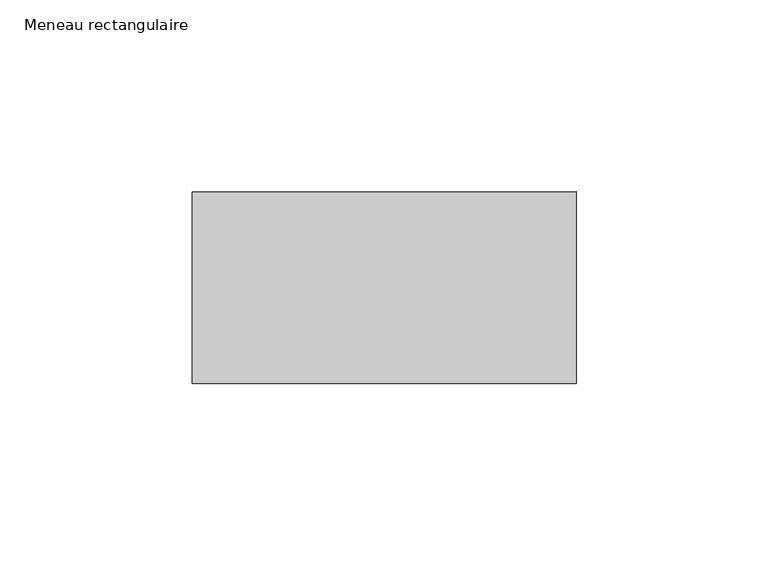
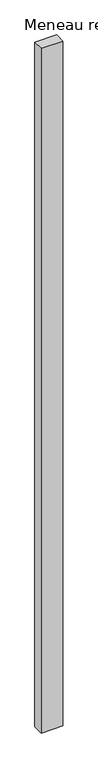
"""IFC4 building model written with IfcOpenShell, lengths in millimetres: member geometry, Meneau rectangulaire : 10x5cm aluminium laqué gris."""

from ifc_helpers import new_model, si_unit, frame, origin, place, context, project, spatial, polyline, outline, extrude, source, transform, mapped, element, save


def meneau_rectangulaire_c977b74d(model_context):
    return source(origin(), model_context, "Body", "SweptSolid", [
        extrude(outline(polyline([(0.0, 25.0), (0.0, -25.0), (-100.0, -25.0), (-100.0, 25.0), (0.0, 25.0)])), frame((0.0, 0.0, -3344.7903449), z_axis=(0.0, 0.0, 1.0), x_axis=(1.0, 0.0, 0.0)), (0.0, 0.0, 1.0), 3344.7903449),
    ])


if __name__ == "__main__":
    model = new_model("IFC4")
    model_context = context("Model", 3, world=origin())
    ifc_project = project(units=[si_unit("LENGTHUNIT", "METRE", prefix="MILLI")], contexts=[model_context])
    site = spatial("IfcSite", under=ifc_project)
    building = spatial("IfcBuilding", under=site)
    placement = place(None, origin())
    meneau_rectangulaire_shape = meneau_rectangulaire_c977b74d(model_context)
    element("IfcMember", 1, ObjectType="Meneau rectangulaire : 10x5cm aluminium laqué gris", at=placement, inside=building, context=model_context, shape_type="MappedRepresentation", body=[
        mapped(meneau_rectangulaire_shape, transform((0.0, 0.0, 0.0), x_axis=(1.0, 0.0, 0.0), y_axis=(0.0, 1.0, 0.0), z_axis=(0.0, 0.0, 1.0))),
    ])
    save(model, "model.ifc")
